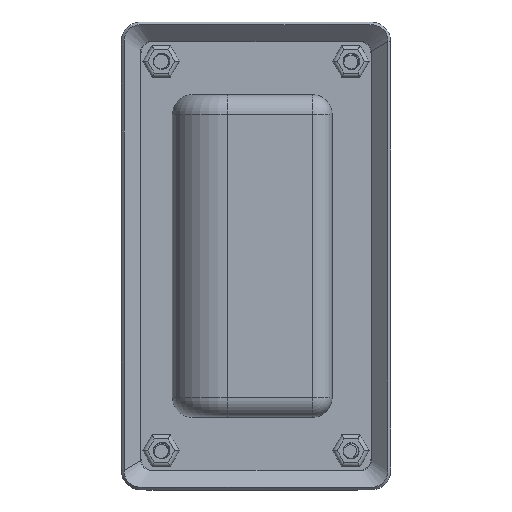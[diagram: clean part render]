
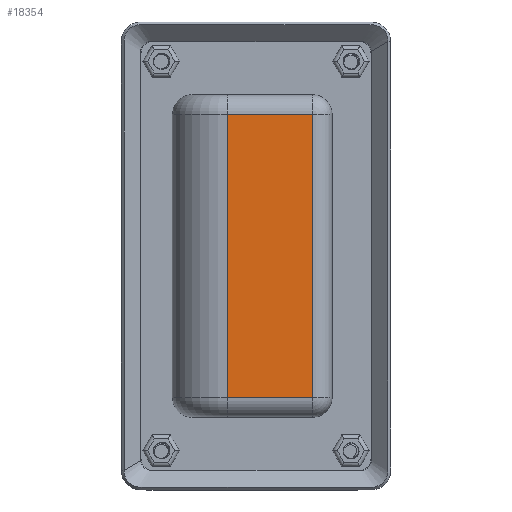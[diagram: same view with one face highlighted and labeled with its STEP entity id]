
A CAD part, front view. The second image highlights one B-rep face of the part: STEP entity #18354.
In plain terms, the highlighted planar face has unit normal (0, -1, 0).
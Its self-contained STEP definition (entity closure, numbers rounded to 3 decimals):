
#758 = CARTESIAN_POINT ( 'NONE',  ( 14.357, -17.71, -36. ) ) ;
#1132 = AXIS2_PLACEMENT_3D ( 'NONE', #23088, #27728, #29900 ) ;
#1226 = LINE ( 'NONE', #19654, #1485 ) ;
#1485 = VECTOR ( 'NONE', #8196, 1000. ) ;
#2036 = CARTESIAN_POINT ( 'NONE',  ( 14.357, -17.71, -82. ) ) ;
#3907 = FACE_OUTER_BOUND ( 'NONE', #5151, .T. ) ;
#5151 = EDGE_LOOP ( 'NONE', ( #5222, #10653, #14840, #10838 ) ) ;
#5222 = ORIENTED_EDGE ( 'NONE', *, *, #10202, .F. ) ;
#7000 = VECTOR ( 'NONE', #28487, 1000. ) ;
#7429 = VERTEX_POINT ( 'NONE', #758 ) ;
#8196 = DIRECTION ( 'NONE',  ( 1., 0., 0. ) ) ;
#10202 = EDGE_CURVE ( 'NONE', #12044, #7429, #25850, .T. ) ;
#10653 = ORIENTED_EDGE ( 'NONE', *, *, #22648, .T. ) ;
#10838 = ORIENTED_EDGE ( 'NONE', *, *, #23246, .T. ) ;
#10870 = VECTOR ( 'NONE', #21319, 1000. ) ;
#11430 = LINE ( 'NONE', #14046, #10870 ) ;
#11526 = VECTOR ( 'NONE', #26816, 1000. ) ;
#12044 = VERTEX_POINT ( 'NONE', #30296 ) ;
#12133 = EDGE_CURVE ( 'NONE', #20583, #21426, #15362, .T. ) ;
#14046 = CARTESIAN_POINT ( 'NONE',  ( -16.25, -17.71, 36. ) ) ;
#14840 = ORIENTED_EDGE ( 'NONE', *, *, #12133, .F. ) ;
#15362 = LINE ( 'NONE', #17097, #11526 ) ;
#17097 = CARTESIAN_POINT ( 'NONE',  ( -7.269, -17.71, -82. ) ) ;
#18354 = ADVANCED_FACE ( 'NONE', ( #3907 ), #18453, .T. ) ;
#18453 = PLANE ( 'NONE',  #1132 ) ;
#19654 = CARTESIAN_POINT ( 'NONE',  ( 14.357, -17.71, -36. ) ) ;
#20583 = VERTEX_POINT ( 'NONE', #26496 ) ;
#21319 = DIRECTION ( 'NONE',  ( -1., 0., 0. ) ) ;
#21426 = VERTEX_POINT ( 'NONE', #28635 ) ;
#22648 = EDGE_CURVE ( 'NONE', #12044, #21426, #11430, .T. ) ;
#23088 = CARTESIAN_POINT ( 'NONE',  ( -16.25, -17.71, -36. ) ) ;
#23246 = EDGE_CURVE ( 'NONE', #20583, #7429, #1226, .T. ) ;
#25850 = LINE ( 'NONE', #2036, #7000 ) ;
#26496 = CARTESIAN_POINT ( 'NONE',  ( -7.269, -17.71, -36. ) ) ;
#26816 = DIRECTION ( 'NONE',  ( 0., 0., 1. ) ) ;
#27728 = DIRECTION ( 'NONE',  ( 0., -1., 0. ) ) ;
#28487 = DIRECTION ( 'NONE',  ( 0., 0., -1. ) ) ;
#28635 = CARTESIAN_POINT ( 'NONE',  ( -7.269, -17.71, 36. ) ) ;
#29900 = DIRECTION ( 'NONE',  ( 0., 0., -1. ) ) ;
#30296 = CARTESIAN_POINT ( 'NONE',  ( 14.357, -17.71, 36. ) ) ;
